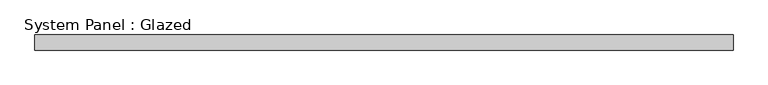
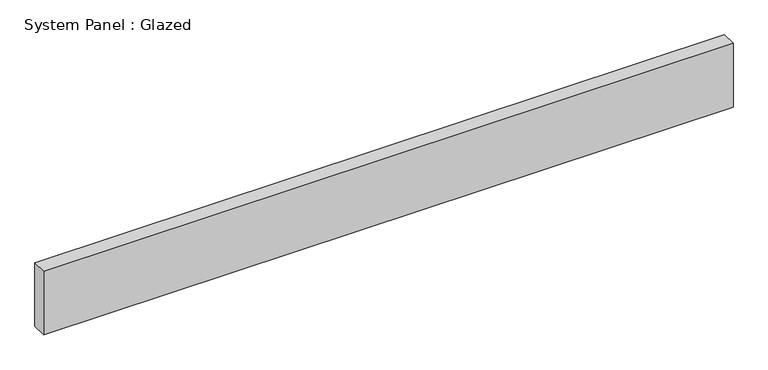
"""IFC4 building model written with IfcOpenShell, lengths in millimetres: plate geometry, System Panel : Glazed."""

import ifcopenshell
import ifcopenshell.guid

model = None  # the IFC model being written
_history = None  # IfcOwnerHistory: only IFC2X3 demands one
_inside = {}  # id of a spatial element -> (the spatial element, [elements in it])
_under = {}  # id of a project, library or spatial element -> (it, [spatial elements below it])
_declared = {}  # id of a project -> (the project, [libraries it declares])
_typed = {}  # id of a type object -> (the type object, [elements of that type])
_made_of = {}  # id of a material, layer set ... -> (it, [elements and type objects made of it])


def new_model(schema):
    """Start an empty IFC model of exactly this schema.

    Asked for "IFC4X3", IfcOpenShell would pick the latest addendum, in which some entities
    have other attributes; the version numbers below select the first issue.
    IFC2X3 requires an IfcOwnerHistory on every rooted entity: one is made here for all.
    """
    global model, _history
    if schema == "IFC4X3":
        model = ifcopenshell.file(schema_version=(4, 3, 0, 0))
    else:
        model = ifcopenshell.file(schema=schema)
    _inside.clear()
    _under.clear()
    _declared.clear()
    _typed.clear()
    _made_of.clear()
    _history = None
    if model.schema == "IFC2X3":
        org = make("IfcOrganization", Name="unknown")
        user = make(
            "IfcPersonAndOrganization",
            ThePerson=make("IfcPerson", FamilyName="unknown"),
            TheOrganization=org,
        )
        app = make(
            "IfcApplication",
            ApplicationDeveloper=org,
            Version="unknown",
            ApplicationFullName="unknown",
            ApplicationIdentifier="unknown",
        )
        _history = make(
            "IfcOwnerHistory",
            OwningUser=user,
            OwningApplication=app,
            ChangeAction="ADDED",
            CreationDate=0,
        )
    return model


def make(cls, **values):
    """One entity of the class cls with the attributes given. An attribute that is None is left unset."""
    return model.create_entity(
        cls, **{name: value for name, value in values.items() if value is not None}
    )


def rooted(cls, **values):
    """An entity with a GlobalId (a new one), such as an element, a storey or a relation."""
    return make(cls, GlobalId=ifcopenshell.guid.new(), OwnerHistory=_history, **values)


def si_unit(unit_type, name, prefix=None):
    """IfcSIUnit, for example si_unit("LENGTHUNIT", "METRE", prefix="MILLI")."""
    return make("IfcSIUnit", UnitType=unit_type, Prefix=prefix, Name=name)


def assignment(units):
    """IfcUnitAssignment: the units of a project."""
    return None if units is None else make("IfcUnitAssignment", Units=units)


def point(xyz):
    """IfcCartesianPoint."""
    return None if xyz is None else make("IfcCartesianPoint", Coordinates=xyz)


def direction(xyz):
    """IfcDirection."""
    return None if xyz is None else make("IfcDirection", DirectionRatios=xyz)


def frame(location, z_axis=None, x_axis=None):
    """IfcAxis2Placement3D, a coordinate frame: its origin and axes. An axis left out is left unset."""
    return make(
        "IfcAxis2Placement3D",
        Location=point(location),
        Axis=direction(z_axis),
        RefDirection=direction(x_axis),
    )


def origin():
    """The frame at (0, 0, 0) with its axes left unset."""
    return frame((0.0, 0.0, 0.0))


def origin_with_axes():
    """The frame at (0, 0, 0) with the z axis (0, 0, 1) and the x axis (1, 0, 0) written out."""
    return frame((0.0, 0.0, 0.0), z_axis=(0.0, 0.0, 1.0), x_axis=(1.0, 0.0, 0.0))


def place(relative_to, where):
    """IfcLocalPlacement: puts the frame where relative to a parent placement (None: the world)."""
    return make(
        "IfcLocalPlacement", PlacementRelTo=relative_to, RelativePlacement=where
    )


def context(
    kind, dimensions, precision=None, world=None, true_north=None, identifier=None
):
    """IfcGeometricRepresentationContext, for example the 3D "Model" context."""
    return make(
        "IfcGeometricRepresentationContext",
        ContextIdentifier=identifier,
        ContextType=kind,
        CoordinateSpaceDimension=dimensions,
        Precision=precision,
        WorldCoordinateSystem=world,
        TrueNorth=true_north,
    )


def project(units=None, contexts=None):
    """IfcProject with its units and contexts."""
    return rooted(
        "IfcProject",
        Name="project",
        RepresentationContexts=contexts,
        UnitsInContext=assignment(units),
    )


def spatial(cls, under=None, at=None, **own):
    """A site, building, storey or space (cls), placed at a placement, below another one or the project."""
    s = rooted(cls, ObjectPlacement=at, **own)
    if under is not None:
        _under.setdefault(under.id(), (under, []))[1].append(s)
    return s


def polyline(points):
    """IfcPolyline through the points."""
    return make("IfcPolyline", Points=[point(p) for p in points])


def outline(outer, holes=None, kind="AREA"):
    """IfcArbitraryClosedProfileDef: a profile drawn as a closed curve; with holes, ...WithVoids."""
    if holes is None:
        return make("IfcArbitraryClosedProfileDef", ProfileType=kind, OuterCurve=outer)
    return make(
        "IfcArbitraryProfileDefWithVoids",
        ProfileType=kind,
        OuterCurve=outer,
        InnerCurves=holes,
    )


def extrude(swept, where, along, depth):
    """IfcExtrudedAreaSolid: the profile swept, set in the frame where, extruded along a direction by depth."""
    return make(
        "IfcExtrudedAreaSolid",
        SweptArea=swept,
        Position=where,
        ExtrudedDirection=direction(along),
        Depth=depth,
    )


def shape(context_of_items, identifier, shape_type, items):
    """IfcShapeRepresentation: the items that make up one representation, for example the "Body"."""
    return make(
        "IfcShapeRepresentation",
        ContextOfItems=context_of_items,
        RepresentationIdentifier=identifier,
        RepresentationType=shape_type,
        Items=items,
    )


def source(mapping_origin, context_of_items, identifier, shape_type, items):
    """IfcRepresentationMap: a shape defined once, which mapped items show again and again."""
    return make(
        "IfcRepresentationMap",
        MappingOrigin=mapping_origin,
        MappedRepresentation=shape(context_of_items, identifier, shape_type, items),
    )


def transform(
    local_origin,
    x_axis=None,
    y_axis=None,
    z_axis=None,
    scale=None,
    scale2=None,
    scale3=None,
    uniform=True,
):
    """IfcCartesianTransformationOperator3D, or its non-uniform kind. x_axis, y_axis, z_axis: its Axis1, 2, 3."""
    if uniform:
        return make(
            "IfcCartesianTransformationOperator3D",
            Axis1=direction(x_axis),
            Axis2=direction(y_axis),
            LocalOrigin=point(local_origin),
            Scale=scale,
            Axis3=direction(z_axis),
        )
    return make(
        "IfcCartesianTransformationOperator3DnonUniform",
        Axis1=direction(x_axis),
        Axis2=direction(y_axis),
        LocalOrigin=point(local_origin),
        Scale=scale,
        Axis3=direction(z_axis),
        Scale2=scale2,
        Scale3=scale3,
    )


def mapped(mapping_source, mapping_target):
    """IfcMappedItem: shows the shape of a source again, moved by a transform."""
    return make(
        "IfcMappedItem", MappingSource=mapping_source, MappingTarget=mapping_target
    )


def made_of(thing, what):
    """Note that an element or type object is made of a material, layer set ...; save() writes the relation."""
    if what is not None:
        _made_of.setdefault(what.id(), (what, []))[1].append(thing)
    return thing


def element(
    cls,
    number,
    at=None,
    inside=None,
    cuts=None,
    type_object=None,
    material=None,
    context=None,
    identifier="Body",
    shape_type=None,
    held_by="IfcProductDefinitionShape",
    body=None,
    shapes=None,
    **own,
):
    """One element of the class cls, such as IfcWall. Its Tag is "e" and its number.

    at: its placement. inside: the storey or other place that contains it. cuts: it is an
    opening in that element (IfcRelVoidsElement). A single representation is given by context,
    identifier, shape_type and body (its items); several are given by shapes. held_by: the class
    of the entity that holds the representations. save() writes the other relations.
    """
    e = rooted(cls, Tag="e%d" % number, ObjectPlacement=at, **own)
    if body is not None:
        shapes = [shape(context, identifier, shape_type, body)]
    if shapes is not None:
        e.Representation = make(held_by, Representations=shapes)
    if inside is not None:
        _inside.setdefault(inside.id(), (inside, []))[1].append(e)
    if cuts is not None:
        rooted(
            "IfcRelVoidsElement", RelatingBuildingElement=cuts, RelatedOpeningElement=e
        )
    if type_object is not None:
        _typed.setdefault(type_object.id(), (type_object, []))[1].append(e)
    return made_of(e, material)


def aggregate(whole, parts):
    """IfcRelAggregates: a whole, such as a stair, and the parts it consists of."""
    return rooted("IfcRelAggregates", RelatingObject=whole, RelatedObjects=parts)


def save(model, path):
    """Write the relations noted so far, then the file.

    IfcRelAggregates (storeys below a building ...), IfcRelContainedInSpatialStructure (elements
    in a storey), IfcRelDefinesByType, IfcRelAssociatesMaterial and IfcRelDeclares: one each for
    every whole, place, type object, material and project.
    """
    for whole, parts in _under.values():
        aggregate(whole, parts)
    for where, things in _inside.values():
        rooted(
            "IfcRelContainedInSpatialStructure",
            RelatedElements=things,
            RelatingStructure=where,
        )
    for kind, things in _typed.values():
        rooted("IfcRelDefinesByType", RelatedObjects=things, RelatingType=kind)
    for what, things in _made_of.values():
        rooted("IfcRelAssociatesMaterial", RelatedObjects=things, RelatingMaterial=what)
    for by, libraries in _declared.values():
        rooted("IfcRelDeclares", RelatingContext=by, RelatedDefinitions=libraries)
    model.write(path)


def system_panel_glazed_680ba1d7(model_context):
    return source(origin(), model_context, "Body", "SweptSolid", [
        extrude(outline(polyline([(586.3065357, -44.45), (-586.3065357, -44.45), (-586.3065357, -19.05), (586.3065357, -19.05), (586.3065357, -44.45)])), origin_with_axes(), (0.0, 0.0, 1.0), 114.3),
    ])


if __name__ == "__main__":
    model = new_model("IFC4")
    model_context = context("Model", 3, world=origin())
    ifc_project = project(units=[si_unit("LENGTHUNIT", "METRE", prefix="MILLI")], contexts=[model_context])
    site = spatial("IfcSite", under=ifc_project)
    building = spatial("IfcBuilding", under=site)
    placement = place(None, origin())
    system_panel_glazed_shape = system_panel_glazed_680ba1d7(model_context)
    element("IfcPlate", 1, ObjectType="System Panel : Glazed", at=placement, inside=building, context=model_context, shape_type="MappedRepresentation", body=[
        mapped(system_panel_glazed_shape, transform((0.0, 0.0, 0.0), x_axis=(1.0, 0.0, 0.0), y_axis=(0.0, 1.0, 0.0), z_axis=(0.0, 0.0, 1.0))),
    ])
    save(model, "model.ifc")
